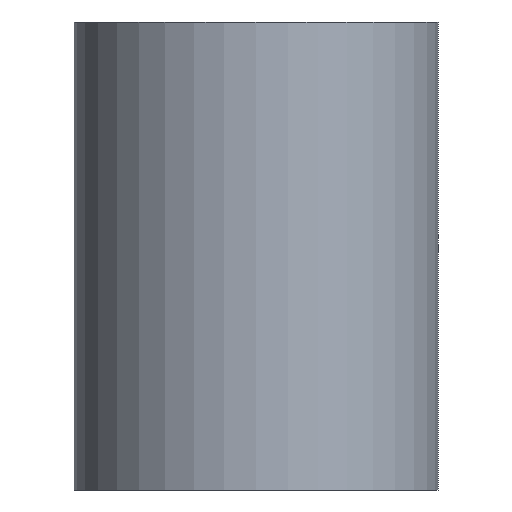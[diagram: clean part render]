
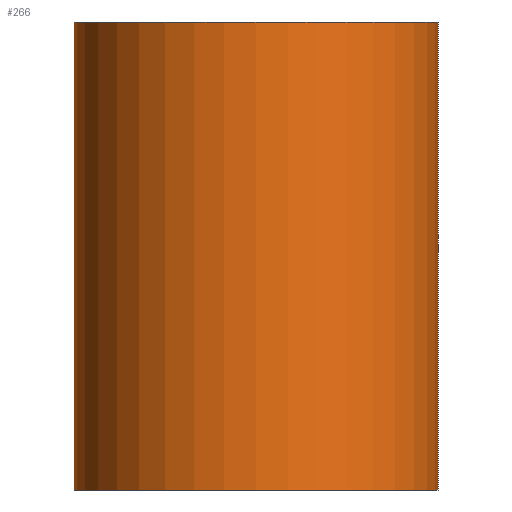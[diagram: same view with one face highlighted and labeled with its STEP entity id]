
A CAD part, front view. The second image highlights one B-rep face of the part: STEP entity #266.
In plain terms, the highlighted cylindrical face has radius 14 mm (diameter 28 mm), a partial arc.
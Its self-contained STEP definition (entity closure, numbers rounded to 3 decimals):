
#97=CARTESIAN_POINT('Axis2P3D Location',(845.,-198.,171.)) ;
#101=CARTESIAN_POINT('Vertex',(831.,-198.,171.)) ;
#103=CARTESIAN_POINT('Vertex',(859.,-198.,171.)) ;
#195=CARTESIAN_POINT('Vertex',(859.,-198.,207.)) ;
#197=CARTESIAN_POINT('Vertex',(831.,-198.,207.)) ;
#200=CARTESIAN_POINT('Axis2P3D Location',(845.,-198.,207.)) ;
#245=CARTESIAN_POINT('Axis2P3D Location',(845.,-198.,176.)) ;
#250=CARTESIAN_POINT('Line Origine',(831.,-198.,176.)) ;
#255=CARTESIAN_POINT('Line Origine',(859.,-198.,176.)) ;
#98=DIRECTION('Axis2P3D Direction',(0.,0.,-1.)) ;
#201=DIRECTION('Axis2P3D Direction',(0.,0.,-1.)) ;
#246=DIRECTION('Axis2P3D Direction',(0.,0.,-1.)) ;
#247=DIRECTION('Axis2P3D XDirection',(1.,0.,0.)) ;
#251=DIRECTION('Vector Direction',(0.,0.,-1.)) ;
#256=DIRECTION('Vector Direction',(0.,0.,-1.)) ;
#99=AXIS2_PLACEMENT_3D('Circle Axis2P3D',#97,#98,$) ;
#202=AXIS2_PLACEMENT_3D('Circle Axis2P3D',#200,#201,$) ;
#248=AXIS2_PLACEMENT_3D('Cylinder Axis2P3D',#245,#246,#247) ;
#261=ORIENTED_EDGE('',*,*,#254,.T.) ;
#262=ORIENTED_EDGE('',*,*,#105,.T.) ;
#263=ORIENTED_EDGE('',*,*,#259,.F.) ;
#264=ORIENTED_EDGE('',*,*,#204,.F.) ;
#252=VECTOR('Line Direction',#251,1.) ;
#257=VECTOR('Line Direction',#256,1.) ;
#266=ADVANCED_FACE('SBS0010116-\X2\4E3B9A7E652F817F524D8F745957\X0\',(#265),#249,.T.) ;
#100=CIRCLE('generated circle',#99,14.) ;
#203=CIRCLE('generated circle',#202,14.) ;
#249=CYLINDRICAL_SURFACE('generated cylinder',#248,14.) ;
#105=EDGE_CURVE('',#102,#104,#100,.F.) ;
#204=EDGE_CURVE('',#198,#196,#203,.F.) ;
#254=EDGE_CURVE('',#198,#102,#253,.T.) ;
#259=EDGE_CURVE('',#196,#104,#258,.T.) ;
#260=EDGE_LOOP('',(#261,#262,#263,#264)) ;
#265=FACE_OUTER_BOUND('',#260,.T.) ;
#253=LINE('Line',#250,#252) ;
#258=LINE('Line',#255,#257) ;
#102=VERTEX_POINT('',#101) ;
#104=VERTEX_POINT('',#103) ;
#196=VERTEX_POINT('',#195) ;
#198=VERTEX_POINT('',#197) ;
